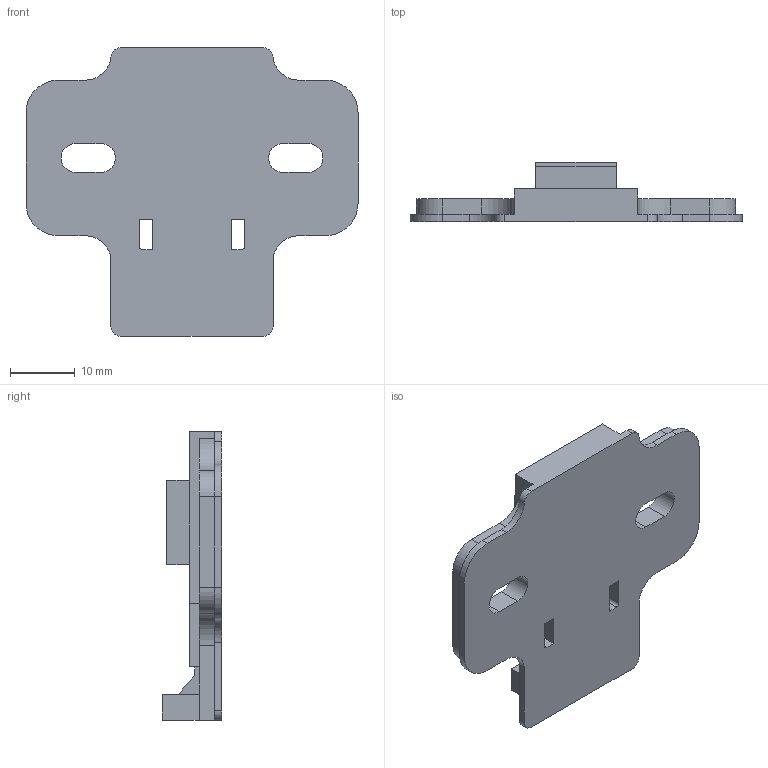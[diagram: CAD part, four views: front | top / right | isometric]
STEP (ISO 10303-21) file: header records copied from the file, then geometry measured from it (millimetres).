
FILE_DESCRIPTION (( 'STEP AP203' ), '1' );
FILE_NAME ('96H00AQ (DTC3D).STEP', '2021-04-09T01:44:26', ( '' ), ( '' ), 'SwSTEP 2.0', 'SolidWorks 2018', '' );
FILE_SCHEMA (( 'CONFIG_CONTROL_DESIGN' ));
Length unit declared in the file: millimetre
Products named in the file (1): 96H00AQ (DTC3D)
Bounding box: 51.2 x 9.2 x 44.5 mm (x, y, z)
Volume: 7110.9 mm3; surface area: 4650.4 mm2
Topology: 1 solids, 1 shells, 81 faces, 238 edges, 158 vertices
Faces by surface type: plane 55, cylinder 26
Entity records: 2781 total; most frequent: CARTESIAN_POINT 478, ORIENTED_EDGE 476, DIRECTION 454, EDGE_CURVE 238, LINE 186, VECTOR 186, VERTEX_POINT 158, AXIS2_PLACEMENT_3D 134
